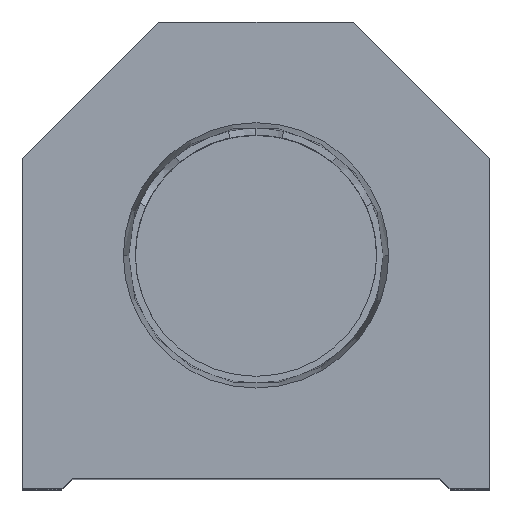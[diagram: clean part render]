
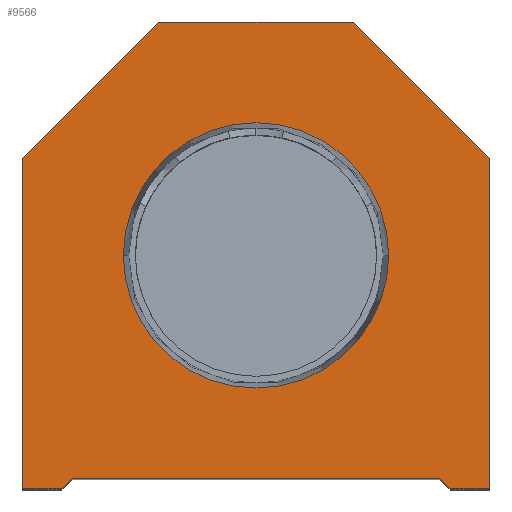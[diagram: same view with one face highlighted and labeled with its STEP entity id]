
A CAD part, top view. The second image highlights one B-rep face of the part: STEP entity #9566.
In plain terms, the highlighted planar face has unit normal (0, 0, 1).
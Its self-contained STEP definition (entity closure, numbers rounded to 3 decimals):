
#71 = LINE ( 'NONE', #5937, #9951 ) ;
#135 = ORIENTED_EDGE ( 'NONE', *, *, #7207, .T. ) ;
#671 = CARTESIAN_POINT ( 'NONE',  ( -22.25, 31.5, 0. ) ) ;
#779 = LINE ( 'NONE', #671, #5227 ) ;
#785 = ORIENTED_EDGE ( 'NONE', *, *, #16573, .T. ) ;
#848 = VECTOR ( 'NONE', #3918, 1000. ) ;
#877 = AXIS2_PLACEMENT_3D ( 'NONE', #18257, #9007, #15183 ) ;
#1156 = ORIENTED_EDGE ( 'NONE', *, *, #1945, .T. ) ;
#1222 = FACE_OUTER_BOUND ( 'NONE', #16814, .T. ) ;
#1245 = LINE ( 'NONE', #9014, #11566 ) ;
#1278 = LINE ( 'NONE', #4736, #6221 ) ;
#1712 = CARTESIAN_POINT ( 'NONE',  ( -12.647, 22.25, 0. ) ) ;
#1945 = EDGE_CURVE ( 'NONE', #15725, #8945, #2805, .T. ) ;
#2183 = EDGE_CURVE ( 'NONE', #12155, #15538, #19773, .T. ) ;
#2366 = CARTESIAN_POINT ( 'NONE',  ( 9.25, 44.5, 0. ) ) ;
#2477 = DIRECTION ( 'NONE',  ( 0.707, -0.707, 0. ) ) ;
#2676 = EDGE_CURVE ( 'NONE', #13368, #15069, #17313, .T. ) ;
#2805 = LINE ( 'NONE', #15206, #4800 ) ;
#2874 = CARTESIAN_POINT ( 'NONE',  ( -22.25, 31.5, 0. ) ) ;
#3108 = DIRECTION ( 'NONE',  ( 1., 0., 0. ) ) ;
#3441 = LINE ( 'NONE', #6717, #11740 ) ;
#3568 = DIRECTION ( 'NONE',  ( 1., 0., 0. ) ) ;
#3918 = DIRECTION ( 'NONE',  ( 0., 1., 0. ) ) ;
#4381 = VERTEX_POINT ( 'NONE', #6399 ) ;
#4385 = ORIENTED_EDGE ( 'NONE', *, *, #19496, .T. ) ;
#4554 = EDGE_CURVE ( 'NONE', #4381, #15725, #1278, .T. ) ;
#4736 = CARTESIAN_POINT ( 'NONE',  ( -17.5, 0., 0. ) ) ;
#4794 = VERTEX_POINT ( 'NONE', #2874 ) ;
#4800 = VECTOR ( 'NONE', #15407, 1000. ) ;
#4949 = EDGE_CURVE ( 'NONE', #8945, #7940, #17626, .T. ) ;
#5227 = VECTOR ( 'NONE', #19731, 1000. ) ;
#5773 = DIRECTION ( 'NONE',  ( 1., 0., 0. ) ) ;
#5937 = CARTESIAN_POINT ( 'NONE',  ( 9.25, 44.5, 0. ) ) ;
#5945 = ORIENTED_EDGE ( 'NONE', *, *, #2676, .F. ) ;
#6221 = VECTOR ( 'NONE', #3108, 1000. ) ;
#6230 = CARTESIAN_POINT ( 'NONE',  ( -9.25, 44.5, 0. ) ) ;
#6327 = DIRECTION ( 'NONE',  ( 1., 0., 0. ) ) ;
#6399 = CARTESIAN_POINT ( 'NONE',  ( -22.25, 0., 0. ) ) ;
#6717 = CARTESIAN_POINT ( 'NONE',  ( -22.25, 0., 0. ) ) ;
#7207 = EDGE_CURVE ( 'NONE', #18656, #4794, #779, .T. ) ;
#7410 = CARTESIAN_POINT ( 'NONE',  ( 0., 22.25, 0. ) ) ;
#7471 = DIRECTION ( 'NONE',  ( 1., 0., 0. ) ) ;
#7803 = CARTESIAN_POINT ( 'NONE',  ( 22.25, 0., 0. ) ) ;
#7870 = PLANE ( 'NONE',  #15298 ) ;
#7940 = VERTEX_POINT ( 'NONE', #11163 ) ;
#8006 = CARTESIAN_POINT ( 'NONE',  ( 12.647, 22.25, 0. ) ) ;
#8402 = LINE ( 'NONE', #16616, #848 ) ;
#8433 = AXIS2_PLACEMENT_3D ( 'NONE', #7410, #15013, #5773 ) ;
#8808 = VECTOR ( 'NONE', #3568, 1000. ) ;
#8945 = VERTEX_POINT ( 'NONE', #13703 ) ;
#9007 = DIRECTION ( 'NONE',  ( 0., 0., 1. ) ) ;
#9014 = CARTESIAN_POINT ( 'NONE',  ( 9.25, 9.25, 0. ) ) ;
#9566 = ADVANCED_FACE ( 'NONE', ( #12178, #1222 ), #7870, .T. ) ;
#9680 = DIRECTION ( 'NONE',  ( 0., -1., 0. ) ) ;
#9827 = ORIENTED_EDGE ( 'NONE', *, *, #20208, .T. ) ;
#9951 = VECTOR ( 'NONE', #18826, 1000. ) ;
#10113 = CARTESIAN_POINT ( 'NONE',  ( -17.5, 1., 0. ) ) ;
#10391 = CARTESIAN_POINT ( 'NONE',  ( 18.5, 0., 0. ) ) ;
#10431 = EDGE_CURVE ( 'NONE', #4794, #4381, #3441, .T. ) ;
#11095 = VECTOR ( 'NONE', #16670, 1000. ) ;
#11115 = ORIENTED_EDGE ( 'NONE', *, *, #4554, .T. ) ;
#11163 = CARTESIAN_POINT ( 'NONE',  ( 17.5, 1., 0. ) ) ;
#11566 = VECTOR ( 'NONE', #2477, 1000. ) ;
#11740 = VECTOR ( 'NONE', #9680, 1000. ) ;
#12155 = VERTEX_POINT ( 'NONE', #10391 ) ;
#12178 = FACE_BOUND ( 'NONE', #14270, .T. ) ;
#12270 = CARTESIAN_POINT ( 'NONE',  ( 17.5, 0., 0. ) ) ;
#12938 = ORIENTED_EDGE ( 'NONE', *, *, #4949, .T. ) ;
#13368 = VERTEX_POINT ( 'NONE', #8006 ) ;
#13703 = CARTESIAN_POINT ( 'NONE',  ( -17.5, 1., 0. ) ) ;
#13781 = ORIENTED_EDGE ( 'NONE', *, *, #15627, .F. ) ;
#14270 = EDGE_LOOP ( 'NONE', ( #5945, #13781 ) ) ;
#14846 = VERTEX_POINT ( 'NONE', #17955 ) ;
#14866 = VERTEX_POINT ( 'NONE', #2366 ) ;
#15013 = DIRECTION ( 'NONE',  ( 0., 0., 1. ) ) ;
#15069 = VERTEX_POINT ( 'NONE', #1712 ) ;
#15086 = CARTESIAN_POINT ( 'NONE',  ( -18.5, 0., 0. ) ) ;
#15132 = EDGE_CURVE ( 'NONE', #14846, #14866, #16867, .T. ) ;
#15183 = DIRECTION ( 'NONE',  ( 1., 0., 0. ) ) ;
#15206 = CARTESIAN_POINT ( 'NONE',  ( -9.25, 9.25, 0. ) ) ;
#15298 = AXIS2_PLACEMENT_3D ( 'NONE', #17218, #15464, #7471 ) ;
#15407 = DIRECTION ( 'NONE',  ( 0.707, 0.707, 0. ) ) ;
#15464 = DIRECTION ( 'NONE',  ( 0., 0., 1. ) ) ;
#15538 = VERTEX_POINT ( 'NONE', #7803 ) ;
#15627 = EDGE_CURVE ( 'NONE', #15069, #13368, #16912, .T. ) ;
#15725 = VERTEX_POINT ( 'NONE', #15086 ) ;
#16573 = EDGE_CURVE ( 'NONE', #7940, #12155, #1245, .T. ) ;
#16616 = CARTESIAN_POINT ( 'NONE',  ( 22.25, 0., 0. ) ) ;
#16670 = DIRECTION ( 'NONE',  ( -0.707, 0.707, 0. ) ) ;
#16814 = EDGE_LOOP ( 'NONE', ( #11115, #1156, #12938, #785, #19286, #9827, #18951, #4385, #135, #19005 ) ) ;
#16867 = LINE ( 'NONE', #17088, #11095 ) ;
#16912 = CIRCLE ( 'NONE', #877, 12.647 ) ;
#17088 = CARTESIAN_POINT ( 'NONE',  ( 22.25, 31.5, 0. ) ) ;
#17218 = CARTESIAN_POINT ( 'NONE',  ( 0., 0., 0. ) ) ;
#17313 = CIRCLE ( 'NONE', #8433, 12.647 ) ;
#17626 = LINE ( 'NONE', #10113, #8808 ) ;
#17955 = CARTESIAN_POINT ( 'NONE',  ( 22.25, 31.5, 0. ) ) ;
#18257 = CARTESIAN_POINT ( 'NONE',  ( 0., 22.25, 0. ) ) ;
#18656 = VERTEX_POINT ( 'NONE', #6230 ) ;
#18826 = DIRECTION ( 'NONE',  ( -1., 0., 0. ) ) ;
#18951 = ORIENTED_EDGE ( 'NONE', *, *, #15132, .T. ) ;
#19005 = ORIENTED_EDGE ( 'NONE', *, *, #10431, .T. ) ;
#19286 = ORIENTED_EDGE ( 'NONE', *, *, #2183, .T. ) ;
#19496 = EDGE_CURVE ( 'NONE', #14866, #18656, #71, .T. ) ;
#19570 = VECTOR ( 'NONE', #6327, 1000. ) ;
#19731 = DIRECTION ( 'NONE',  ( -0.707, -0.707, 0. ) ) ;
#19773 = LINE ( 'NONE', #12270, #19570 ) ;
#20208 = EDGE_CURVE ( 'NONE', #15538, #14846, #8402, .T. ) ;
